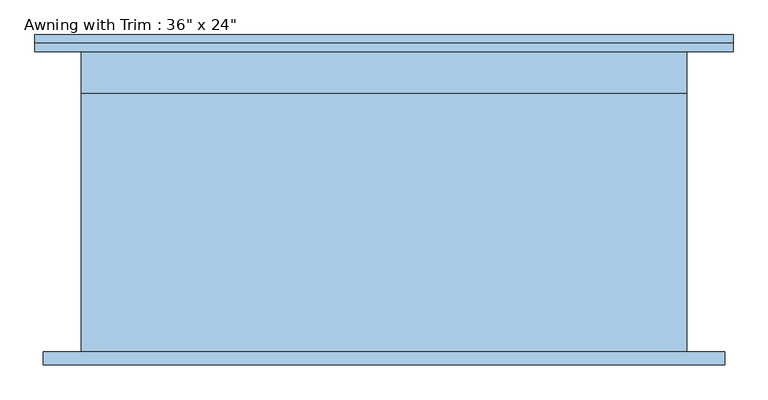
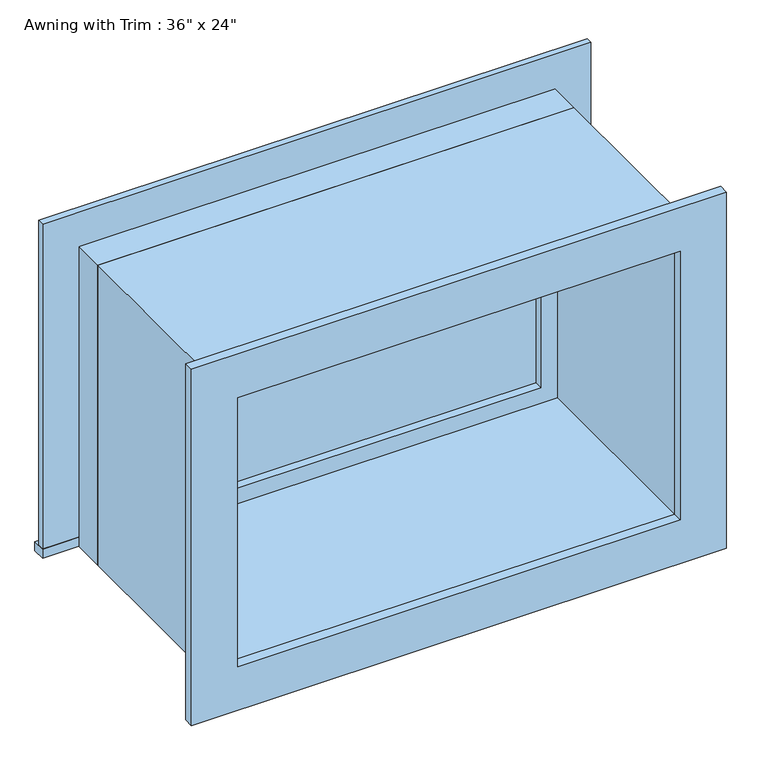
"""IFC4 building model written with IfcOpenShell, lengths in millimetres: window geometry."""

from ifc_helpers import new_model, si_unit, frame, origin, place, context, project, spatial, polyline, outline, extrude, source, transform, mapped, element, save


def window_f406ef81(model_context):
    return source(origin(), model_context, "Body", "SweptSolid", [
        extrude(outline(polyline([(-527.05, 252.4125), (527.05, 252.4125), (527.05, 227.0125), (-527.05, 227.0125), (-527.05, 252.4125)])), frame((0.0, 0.0, 914.4), z_axis=(0.0, 0.0, 1.0), x_axis=(1.0, 0.0, 0.0)), (0.0, 0.0, 1.0), 19.05),
        extrude(outline(polyline([(1504.95, -438.15), (1504.95, 438.15), (933.45, 438.15), (933.45, 527.05), (1593.85, 527.05), (1593.85, -527.05), (933.45, -527.05), (933.45, -438.15), (1504.95, -438.15)])), frame((0.0, 227.0125, 0.0), z_axis=(0.0, 1.0, 0.0), x_axis=(0.0, 0.0, 1.0)), (0.0, 0.0, 1.0), 12.7),
        extrude(outline(polyline([(1581.15, 514.35), (1581.15, -514.35), (857.25, -514.35), (857.25, 514.35), (1581.15, 514.35)]), holes=[polyline([(1492.25, 425.45), (946.15, 425.45), (946.15, -425.45), (1492.25, -425.45), (1492.25, 425.45)])]), frame((0.0, -246.0625, 0.0), z_axis=(0.0, 1.0, 0.0), x_axis=(0.0, 0.0, 1.0)), (0.0, 0.0, 1.0), 19.05),
        extrude(outline(polyline([(393.7, 179.3875), (-393.7, 179.3875), (-393.7, 192.0875), (393.7, 192.0875), (393.7, 179.3875)])), frame((0.0, 0.0, 977.9), z_axis=(0.0, 0.0, 1.0), x_axis=(1.0, 0.0, 0.0)), (0.0, 0.0, 1.0), 482.6),
        extrude(outline(polyline([(1504.95, -438.15), (933.45, -438.15), (933.45, 438.15), (1504.95, 438.15), (1504.95, -438.15)]), holes=[polyline([(1460.5, -393.7), (1460.5, 393.7), (977.9, 393.7), (977.9, -393.7), (1460.5, -393.7)])]), frame((0.0, 163.5125, 0.0), z_axis=(0.0, 1.0, 0.0), x_axis=(0.0, 0.0, 1.0)), (0.0, 0.0, 1.0), 44.45),
        extrude(outline(polyline([(1524.0, -457.2), (914.4, -457.2), (914.4, 457.2), (1524.0, 457.2), (1524.0, -457.2)]), holes=[polyline([(1492.25, -425.45), (1492.25, 425.45), (946.15, 425.45), (946.15, -425.45), (1492.25, -425.45)])]), frame((0.0, -227.0125, 0.0), z_axis=(0.0, 1.0, 0.0), x_axis=(0.0, 0.0, 1.0)), (0.0, 0.0, 1.0), 390.525),
        extrude(outline(polyline([(1524.0, 457.2), (1524.0, -457.2), (914.4, -457.2), (914.4, 457.2), (1524.0, 457.2)]), holes=[polyline([(1504.95, 438.15), (933.45, 438.15), (933.45, -438.15), (1504.95, -438.15), (1504.95, 438.15)])]), frame((0.0, 163.5125, 0.0), z_axis=(0.0, 1.0, 0.0), x_axis=(0.0, 0.0, 1.0)), (0.0, 0.0, 1.0), 63.5),
    ])


if __name__ == "__main__":
    model = new_model("IFC4")
    model_context = context("Model", 3, world=origin())
    ifc_project = project(units=[si_unit("LENGTHUNIT", "METRE", prefix="MILLI")], contexts=[model_context])
    site = spatial("IfcSite", under=ifc_project)
    building = spatial("IfcBuilding", under=site)
    placement = place(None, origin())
    window_shape = window_f406ef81(model_context)
    element("IfcWindow", 1, ObjectType="Awning with Trim : 36\" x 24\"", at=placement, inside=building, context=model_context, shape_type="MappedRepresentation", body=[
        mapped(window_shape, transform((0.0, 0.0, 0.0), x_axis=(1.0, 0.0, 0.0), y_axis=(0.0, 1.0, 0.0), z_axis=(0.0, 0.0, 1.0))),
    ])
    save(model, "model.ifc")
